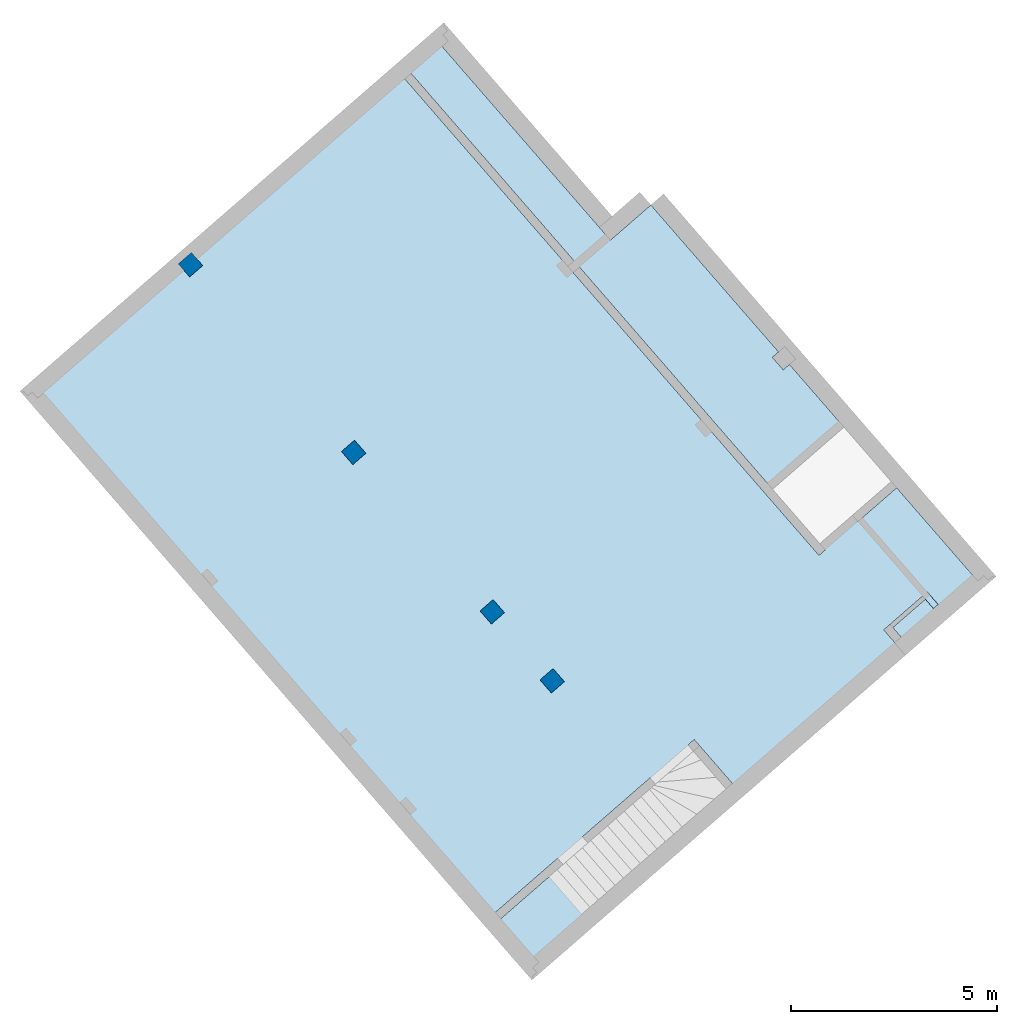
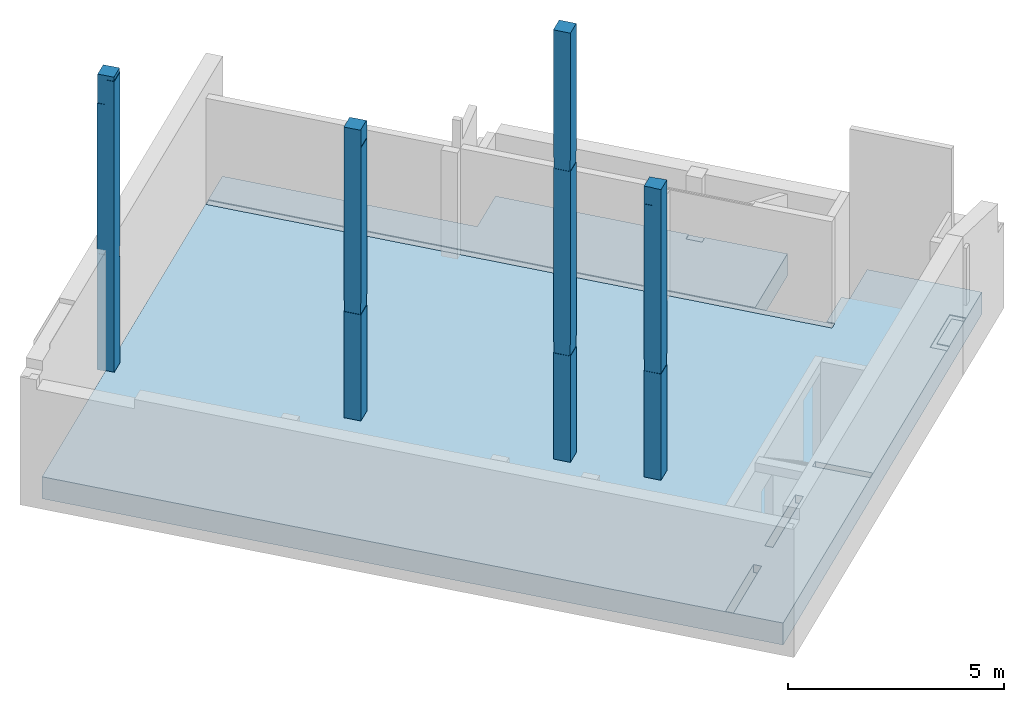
# One storey, part 2 of 4: 4 columns, 1 slab.
"""IFC2X3 building model written with IfcOpenShell, lengths in millimetres."""

from ifc_helpers import new_model, entity, si_unit, converted_unit, derived_unit, money_unit, direction, frame, origin_with_axes, place, context, subcontext, project, spatial, faceted_brep, material, material_list, type_object, element, save


model = new_model("IFC2X3")

# Units and contexts
model_context = context("Model", 3, precision=1e-05, world=origin_with_axes(), true_north=direction((0.0, 1.0)))
body_context = subcontext(model_context, "Body", "Model", "MODEL_VIEW")
ifc_project = project(units=[si_unit("LENGTHUNIT", "METRE", prefix="MILLI"), si_unit("AREAUNIT", "SQUARE_METRE"), si_unit("VOLUMEUNIT", "CUBIC_METRE"), converted_unit("PLANEANGLEUNIT", "DEGREE", entity("IfcPlaneAngleMeasure", 0.0174532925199), si_unit("PLANEANGLEUNIT", "RADIAN"), dimensions=[0, 0, 0, 0, 0, 0, 0]), si_unit("SOLIDANGLEUNIT", "STERADIAN"), money_unit("EUR"), converted_unit("TIMEUNIT", "Year", entity("IfcTimeMeasure", 31556926.0), si_unit("TIMEUNIT", "SECOND"), dimensions=[0, 0, 1, 0, 0, 0, 0]), si_unit("MASSUNIT", "GRAM", prefix="KILO"), si_unit("THERMODYNAMICTEMPERATUREUNIT", "DEGREE_CELSIUS"), si_unit("LUMINOUSINTENSITYUNIT", "LUMEN"), si_unit("ENERGYUNIT", "JOULE", prefix="MEGA"), derived_unit("THERMALCONDUCTANCEUNIT", [(si_unit("POWERUNIT", "WATT"), 1), (si_unit("LENGTHUNIT", "METRE"), -1), (si_unit("THERMODYNAMICTEMPERATUREUNIT", "KELVIN"), -1)]), derived_unit("SPECIFICHEATCAPACITYUNIT", [(si_unit("ENERGYUNIT", "JOULE"), 1), (si_unit("MASSUNIT", "GRAM", prefix="KILO"), -1), (si_unit("THERMODYNAMICTEMPERATUREUNIT", "KELVIN"), -1)]), derived_unit("MASSDENSITYUNIT", [(si_unit("MASSUNIT", "GRAM", prefix="KILO"), 1), (si_unit("VOLUMEUNIT", "CUBIC_METRE"), -1)])], contexts=[model_context])

# Site, building, storey
site_placement = place(None, origin_with_axes())
site = spatial("IfcSite", under=ifc_project, at=site_placement, Name="Site", CompositionType="ELEMENT")
building_placement = place(site_placement, origin_with_axes())
building = spatial("IfcBuilding", under=site, at=building_placement, Name="Building", CompositionType="ELEMENT")
storey_placement = place(building_placement, frame((0.0, 0.0, -3415.0), z_axis=(0.0, 0.0, 1.0), x_axis=(1.0, 0.0, 0.0)))
storey = spatial("IfcBuildingStorey", under=building, at=storey_placement, Name="-1 korrus", CompositionType="ELEMENT", Elevation=-3415.0)

# Columns
ifc_material_1 = material(Name="Betoon - Konstuktsioon")
ifc_material_2 = material(Name="Krohv - Lubjakivi")
ifc_material_list_1 = material_list([ifc_material_1, ifc_material_2, ifc_material_2])
column_type = type_object("IfcColumnType", Name="Post", PredefinedType="NOTDEFINED")
column_1_placement = place(storey_placement, frame((138718.826169, 75144.0497702, -20.0), z_axis=(0.0, 0.0, 1.0), x_axis=(0.656059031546, -0.754709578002, 0.0)))
element("IfcColumn", 1, at=column_1_placement, inside=storey, type_object=column_type, material=ifc_material_list_1, Name="Betoon - Konstuktsioon", ObjectType="Betoon - Konstuktsioon 400 x 400", context=body_context, shape_type="Brep", body=[
    faceted_brep([(-200.0, -200.0, 0.0), (200.0, -200.0, 0.0), (200.0, -200.0, 12150.0), (-200.0, -200.0, 12150.0), (-200.0, 200.0, 0.0), (200.0, 200.0, 0.0), (200.0, 200.0, 12150.0), (-200.0, 200.0, 12150.0)], [[[0, 1, 2, 3]], [[0, 4, 5, 1]], [[1, 5, 6, 2]], [[3, 2, 6, 7]], [[4, 0, 3, 7]], [[5, 4, 7, 6]]]),
    faceted_brep([(200.0, -200.0, 3020.0), (200.0, 200.0, 3020.0), (200.0, 200.0, 0.0), (200.0, -200.0, 0.0), (210.0, -210.0, 3020.0), (210.0, 210.0, 3020.0), (-210.0, 210.0, 3020.0), (-210.0, -210.0, 3020.0), (-200.0, 200.0, 3020.0), (-200.0, -200.0, 3020.0), (-200.0, 200.0, 0.0), (210.0, -210.0, 0.0), (-210.0, -210.0, 0.0), (-210.0, 210.0, 0.0), (210.0, 210.0, 0.0), (-200.0, -200.0, 0.0)], [[[0, 1, 2, 3]], [[4, 5, 6, 7], [8, 1, 0, 9]], [[1, 8, 10, 2]], [[11, 12, 13, 14], [10, 15, 3, 2]], [[9, 0, 3, 15]], [[5, 4, 11, 14]], [[6, 5, 14, 13]], [[7, 6, 13, 12]], [[4, 7, 12, 11]], [[8, 9, 15, 10]]]),
    faceted_brep([(-210.0, 200.0, 8550.0), (-210.0, 200.0, 8235.0), (-200.0, 200.0, 8235.0), (-200.0, 200.0, 8550.0), (-210.0, -210.0, 8550.0), (-210.0, -210.0, 12150.0), (-210.0, 210.0, 12150.0), (-210.0, 210.0, 3335.0), (-210.0, -210.0, 3335.0), (-210.0, -210.0, 8235.0), (210.0, -200.0, 8235.0), (200.0, -200.0, 8235.0), (-200.0, -200.0, 8235.0), (210.0, -210.0, 8235.0), (-200.000000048, 210.0, 8235.0), (-200.000000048, 210.0, 8550.0), (200.0, -200.0, 8550.0), (210.0, -200.0, 8550.0), (210.0, -210.0, 8550.0), (-200.0, -200.0, 8550.0), (210.0, -210.0, 12150.0), (210.0, 210.0, 12150.0), (200.0, -200.0, 12150.0), (-200.0, -200.0, 12150.0), (-200.0, 200.0, 12150.0), (200.0, 200.0, 12150.0), (210.0, 210.0, 3335.0), (210.0, 210.0, 8550.0), (210.0, 210.0, 8235.0), (210.0, -210.0, 3335.0), (200.0, -200.0, 3335.0), (200.0, 200.0, 3335.0), (-200.0, 200.0, 3335.0), (-200.0, -200.0, 3335.0), (200.0, 200.0, 8235.0), (200.0, 200.0, 8550.0)], [[[0, 1, 2, 3]], [[0, 4, 5, 6, 7, 8, 9, 1]], [[10, 11, 12, 2, 1, 9, 13]], [[2, 14, 15, 3]], [[16, 17, 18, 4, 0, 3, 19]], [[4, 18, 20, 5]], [[6, 5, 20, 21], [22, 23, 24, 25]], [[26, 7, 6, 21, 27, 15, 14, 28]], [[7, 26, 29, 8], [30, 31, 32, 33]], [[13, 9, 8, 29]], [[11, 10, 28, 14, 2, 34]], [[12, 11, 30, 33]], [[2, 12, 33, 32]], [[10, 13, 29, 26, 28]], [[17, 16, 35, 3, 15, 27]], [[18, 17, 27, 21, 20]], [[19, 3, 24, 23]], [[16, 19, 23, 22]], [[3, 35, 25, 24]], [[35, 16, 22, 25]], [[31, 30, 11, 34]], [[32, 31, 34, 2]]]),
])
column_2_placement = place(storey_placement, frame((135353.242825, 79015.7095983, -20.0), z_axis=(0.0, 0.0, 1.0), x_axis=(0.656059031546, -0.754709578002, 0.0)))
element("IfcColumn", 2, at=column_2_placement, inside=storey, type_object=column_type, material=ifc_material_list_1, Name="Betoon - Konstuktsioon", ObjectType="Betoon - Konstuktsioon 400 x 400", context=body_context, shape_type="Brep", body=[
    faceted_brep([(-200.0, -200.0, 0.0), (200.0, -200.0, 0.0), (200.0, -200.0, 8234.9999918), (-200.0, -200.0, 8234.9999918), (-200.0, 200.0, 0.0), (200.0, 200.0, 0.0), (200.0, 200.0, 8234.9999918), (-200.0, 200.0, 8234.9999918)], [[[0, 1, 2, 3]], [[0, 4, 5, 1]], [[1, 5, 6, 2]], [[3, 2, 6, 7]], [[4, 0, 3, 7]], [[5, 4, 7, 6]]]),
    faceted_brep([(200.000023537, -199.999776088, 3020.0), (200.000023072, 200.000223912, 3020.0), (200.0, 200.0, 0.0), (200.0, -200.0, 0.0), (210.0, -210.0, 3020.0), (210.0, 210.0, 3020.0), (-210.0, 210.0, 3020.0), (-210.0, -210.0, 3020.0), (-200.0, 200.0, 3020.0), (-200.0, -200.0, 3020.0), (-200.0, 200.0, 0.0), (210.0, 210.0, 0.0), (210.0, -210.0, 0.0), (-210.0, -210.0, 0.0), (-210.0, 210.0, 0.0), (-200.0, -200.0, 0.0)], [[[0, 1, 2, 3]], [[4, 5, 6, 7], [8, 1, 0, 9]], [[1, 8, 10, 2]], [[11, 12, 13, 14], [2, 10, 15, 3]], [[9, 0, 3, 15]], [[5, 4, 12, 11]], [[6, 5, 11, 14]], [[7, 6, 14, 13]], [[4, 7, 13, 12]], [[8, 9, 15, 10]]]),
    faceted_brep([(-200.0, 200.0, 3335.0), (200.000025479, 200.000247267, 3335.0), (200.000059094, 200.000573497, 7735.0), (200.000059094, 200.000573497, 8235.0), (-200.0, 200.0, 8234.9999918), (-210.0, 210.0, 3335.0), (210.0, 210.0, 3335.0), (210.0, -210.0, 3335.0), (-210.0, -210.0, 3335.0), (200.000025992, -199.999752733, 3335.0), (-200.0, -200.0, 3335.0), (200.000060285, -199.999426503, 7735.0), (210.0, 200.000573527, 7735.0), (210.0, 200.000573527, 8235.0), (210.0, -210.0, 8234.9999918), (210.0, -199.999426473, 8235.0), (200.000060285, -199.999426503, 8235.0), (-200.0, -200.0, 8234.9999918), (210.0, 210.0, 8234.9999918), (-210.0, 210.0, 8234.9999918), (-210.0, -210.0, 8234.9999918), (210.0, -199.999426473, 7735.0)], [[[0, 1, 2, 3, 4]], [[5, 6, 7, 8], [9, 1, 0, 10]], [[1, 9, 11, 2]], [[2, 12, 13, 3]], [[14, 15, 16, 17, 4, 3, 13, 18, 19, 20]], [[10, 0, 4, 17]], [[6, 5, 19, 18]], [[7, 6, 18, 13, 12, 21, 15, 14]], [[8, 7, 14, 20]], [[5, 8, 20, 19]], [[9, 10, 17, 16, 11]], [[11, 21, 12, 2]], [[11, 16, 15, 21]]]),
])
column_3_placement = place(storey_placement, frame((140175.27717, 73468.5945627, -20.0), z_axis=(0.0, 0.0, 1.0), x_axis=(0.656059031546, -0.754709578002, 0.0)))
element("IfcColumn", 3, at=column_3_placement, inside=storey, type_object=column_type, material=ifc_material_list_1, Name="Betoon - Konstuktsioon", ObjectType="Betoon - Konstuktsioon 400 x 400", context=body_context, shape_type="Brep", body=[
    faceted_brep([(-200.0, -200.0, 0.0), (200.0, -200.0, 0.0), (200.0, -200.0, 8235.0), (-200.0, -200.0, 8235.0), (-200.0, 200.0, 0.0), (200.0, 200.0, 0.0), (200.0, 200.0, 8235.0), (-200.0, 200.0, 8235.0)], [[[0, 1, 2, 3]], [[0, 4, 5, 1]], [[1, 5, 6, 2]], [[3, 2, 6, 7]], [[4, 0, 3, 7]], [[5, 4, 7, 6]]]),
    faceted_brep([(200.0, -200.0, 3020.0), (200.0, 200.0, 3020.0), (200.0, 200.0, 0.0), (200.0, -200.0, 0.0), (210.0, -210.0, 3020.0), (210.0, 210.0, 3020.0), (-210.0, 210.0, 3020.0), (-210.0, -210.0, 3020.0), (-199.999997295, 200.0, 3020.0), (-199.999997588, -200.0, 3020.0), (-200.0, 200.0, 0.0), (210.0, 210.0, 0.0), (210.0, -210.0, 0.0), (-210.0, -210.0, 0.0), (-210.0, 210.0, 0.0), (-200.0, -200.0, 0.0)], [[[0, 1, 2, 3]], [[4, 5, 6, 7], [8, 1, 0, 9]], [[1, 8, 10, 2]], [[11, 12, 13, 14], [2, 10, 15, 3]], [[9, 0, 3, 15]], [[5, 4, 12, 11]], [[6, 5, 11, 14]], [[7, 6, 14, 13]], [[4, 7, 13, 12]], [[8, 9, 15, 10]]]),
    faceted_brep([(-199.999997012, 200.0, 3335.0), (200.0, 200.0, 3335.0), (200.0, 200.0, 8235.0), (6.92904222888e-06, 200.0, 8235.0), (6.92904222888e-06, 200.0, 7735.0), (-199.999993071, 200.0, 7735.0), (-210.0, 210.0, 3335.0), (210.0, 210.0, 3335.0), (210.0, -210.0, 3335.0), (-210.0, -210.0, 3335.0), (200.0, -200.0, 3335.0), (-199.999997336, -200.0, 3335.0), (200.0, -200.0, 8235.0), (210.0, 210.0, 8235.0), (6.94781476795e-06, 210.0, 8235.0), (6.17843198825e-06, -200.0, 8235.0), (6.15968076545e-06, -210.0, 8235.0), (210.0, -210.0, 8235.0), (6.94780766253e-06, 210.0, 7735.0), (-199.999993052, 210.0, 7735.0), (-199.999993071, 200.0, 8235.0), (-199.999993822, -200.0, 8235.0), (-199.999993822, -200.0, 7735.0), (-210.0, 210.0, 8235.0), (-199.999993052, 210.0, 8235.0), (6.15966655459e-06, -210.0, 7735.0), (-199.99999384, -210.0, 7735.0), (-199.99999384, -210.0, 8235.0), (-210.0, -210.0, 8235.0), (6.17843198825e-06, -200.0, 7735.0)], [[[0, 1, 2, 3, 4, 5]], [[6, 7, 8, 9], [10, 1, 0, 11]], [[1, 10, 12, 2]], [[13, 14, 3, 2, 12, 15, 16, 17]], [[4, 3, 14, 18]], [[4, 18, 19, 5]], [[11, 0, 5, 20, 21, 22]], [[7, 6, 23, 24, 19, 18, 14, 13]], [[8, 7, 13, 17]], [[9, 8, 17, 16, 25, 26, 27, 28]], [[6, 9, 28, 23]], [[10, 11, 22, 29, 15, 12]], [[25, 16, 15, 29]], [[5, 19, 24, 20]], [[21, 20, 24, 23, 28, 27]], [[26, 22, 21, 27]], [[25, 29, 22, 26]]]),
])
ifc_material_list_2 = material_list([ifc_material_1, ifc_material_2])
column_4_placement = place(storey_placement, frame((131390.646308, 83574.1554382, -20.0), z_axis=(0.0, 0.0, 1.0), x_axis=(0.656059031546, -0.754709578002, 0.0)))
element("IfcColumn", 4, at=column_4_placement, inside=storey, type_object=column_type, material=ifc_material_list_2, Name="Betoon - Konstuktsioon", ObjectType="Betoon - Konstuktsioon 400 x 400", context=body_context, shape_type="Brep", body=[
    faceted_brep([(-200.0, -200.0, 0.0), (200.0, -200.0, 0.0), (200.0, -200.0, 8350.0), (-200.0, -200.0, 8350.0), (-200.0, 200.0, 0.0), (200.0, 200.0, 0.0), (200.0, 200.0, 8350.0), (-200.0, 200.0, 8350.0)], [[[0, 1, 2, 3]], [[0, 4, 5, 1]], [[1, 5, 6, 2]], [[3, 2, 6, 7]], [[4, 0, 3, 7]], [[5, 4, 7, 6]]]),
    faceted_brep([(4.85299977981e-06, 210.0, 8235.0), (210.0, 210.0, 8235.0), (210.0, 210.0, 3335.0), (10.0000450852, 210.0, 3335.0), (10.0000450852, 210.0, 3020.0), (210.0, 210.0, 3020.0), (210.0, 210.0, 0.0), (-210.0, 210.0, 0.0), (-210.0, 210.0, 7535.0), (-8.49995984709e-06, 210.0, 7535.0), (-200.00003705, 210.0, 3435.00019992), (-200.00003705, 210.0, 3285.0), (-3.70497659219e-05, 210.0, 3285.0), (-3.70497659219e-05, 210.0, 3435.00019992), (210.0, -210.0, 8235.0), (4.82222617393e-06, 200.0, 8235.0), (200.0, 200.0, 8235.0), (200.0, -200.0, 8235.0), (3.59150220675e-06, -200.0, 8235.0), (3.56071439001e-06, -210.0, 8235.0), (210.0, -210.0, 0.0), (210.0, 179.761567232, 3020.0), (210.0, 179.761567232, 3335.0), (200.0, 179.761151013, 3335.0), (200.0, 200.0, 3335.0), (9.99997992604, 200.0, 3335.0), (9.99997992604, 200.0, 3020.0), (200.0, 200.0, 3020.0), (200.0, 179.761151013, 3020.0), (-210.0, -210.0, 0.0), (200.0, 200.0, 0.0), (-200.0, 200.0, 0.0), (-200.0, -200.0, 0.0), (200.0, -200.0, 0.0), (-210.0, -210.0, 7535.0), (-200.00001021, -200.0, 7535.0), (-200.000008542, 200.0, 7535.0), (-8.54166870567e-06, 200.0, 7535.0), (-1.0251618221e-05, -210.0, 7535.0), (-1.0209902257e-05, -200.0, 7535.0), (-200.000036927, 200.0, 3285.0), (-200.000036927, 200.0, 3435.00019992), (-3.69270409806e-05, 200.0, 3285.0), (-3.69270409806e-05, 200.0, 3435.00019992), (-200.000032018, -200.0, 3285.0), (-3.20183559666e-05, -200.0, 3285.0), (-3.20183559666e-05, -200.0, 3435.00019992), (-200.000032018, -200.0, 3435.00019992), (-3.18956594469e-05, -210.0, 3285.0), (-200.000031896, -210.0, 3285.0), (-200.000031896, -210.0, 3435.00019992), (-3.18956594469e-05, -210.0, 3435.00019992)], [[[0, 1, 2, 3, 4, 5, 6, 7, 8, 9], [10, 11, 12, 13]], [[14, 1, 0, 15, 16, 17, 18, 19]], [[1, 14, 20, 6, 5, 21, 22, 2]], [[3, 2, 22, 23, 24, 25]], [[25, 26, 4, 3]], [[21, 5, 4, 26, 27, 28]], [[6, 20, 29, 7], [30, 31, 32, 33]], [[29, 34, 8, 7]], [[35, 36, 37, 9, 8, 34, 38, 39]], [[15, 0, 9, 37]], [[40, 11, 10, 41]], [[42, 12, 11, 40]], [[43, 13, 12, 42]], [[41, 10, 13, 43]], [[16, 15, 37, 36, 41, 43, 42, 40, 31, 30, 27, 26, 25, 24]], [[17, 16, 24, 23, 28, 27, 30, 33]], [[18, 17, 33, 32, 44, 45, 46, 47, 35, 39]], [[19, 18, 39, 38]], [[14, 19, 38, 34, 29, 20], [48, 49, 50, 51]], [[28, 23, 22, 21]], [[41, 36, 35, 47, 44, 32, 31, 40]], [[48, 45, 44, 49]], [[51, 46, 45, 48]], [[50, 47, 46, 51]], [[49, 44, 47, 50]]]),
])

# Slab
ifc_material_3 = material(Name="Puit - Põrand")
ifc_material_4 = material(Name="Betoon")
ifc_material_5 = material(Name="Soojustus - Plastik Kõva")
ifc_material_6 = material(Name="Killustik")
ifc_material_list_3 = material_list([ifc_material_3, ifc_material_4, ifc_material_5, ifc_material_5, ifc_material_6])
slab_type = type_object("IfcSlabType", Name="PP-01", PredefinedType="FLOOR")
slab_placement = place(storey_placement, frame((137496.155376, 88881.5935051, 0.0), z_axis=(0.0, 0.0, 1.0), x_axis=(1.0, 0.0, 0.0)))
element("IfcSlab", 5, at=slab_placement, inside=storey, type_object=slab_type, material=ifc_material_list_3, Name="PP-01", PredefinedType="FLOOR", context=body_context, shape_type="Brep", body=[
    faceted_brep([(-5809.24766022, -5328.15468159, -20.0), (-5947.02005896, -5169.66566778, -20.0), (0.0, 0.0, -20.0), (4093.80824677, -4709.38786107, -20.0), (5074.93019105, -3856.5115667, -20.0), (8178.08980476, -7426.28758869, -20.0), (8027.14807656, -7557.4992321, -20.0), (8289.57168918, -7859.3830633, -20.0), (8440.51344819, -7728.17139311, -20.0), (9765.75282005, -9252.68457386, -20.0), (8029.92084497, -10761.6204038, -20.0), (-748.148996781, -663.606131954, -20.0), (-899.090912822, -794.817937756, -20.0), (9158.2939724, -12364.5158317, -20.0), (9309.23588903, -12233.3040266, -20.0), (9178.02407891, -12082.3621042, -20.0), (9970.46914322, -11393.5001256, -20.0), (10101.6810515, -11544.4419525, -20.0), (11045.0674464, -10724.367546, -20.0), (12888.6007952, -12845.0887993, -20.0), (11152.7617638, -14354.0379388, -20.0), (10949.3881721, -14120.0833908, -20.0), (11741.8063804, -13431.2447514, -20.0), (11938.619372, -13657.6522125, -20.0), (12051.8258119, -13559.2433615, -20.0), (11789.4069167, -13257.3649371, -20.0), (11676.2004797, -13355.7737915, -20.0), (10883.7822681, -14044.6124338, -20.0), (10732.8403521, -14175.8242396, -20.0), (11001.8198497, -14485.2497468, -20.0), (2224.54742411, -22115.2162503, -20.0), (-9682.9239498, -8417.23737447, -20.0), (-6263.99808263, -5445.21045998, -20.0), (-6126.22568298, -5603.69947484, -20.0), (6900.96234898, -18036.8258001, -20.0), (7051.90426501, -17905.6139943, -20.0), (6258.07090297, -16992.4131742, -20.0), (6126.85909715, -16841.4712582, -20.0), (5975.91718123, -16972.6830624, -20.0), (6107.12898619, -17123.6249792, -20.0), (5055.17148888, -17773.0750726, -20.0), (3413.67812535, -19200.0034676, -20.0), (3544.8899303, -19350.9453844, -20.0), (5186.38329383, -17924.0169894, -20.0), (2809.91045823, -19724.8506874, -20.0), (1300.4912913, -21036.9687362, -20.0), (1431.70309625, -21187.9106529, -20.0), (2941.12226318, -19875.7926042, -20.0), (2382.86038637, -15392.2823276, -20.0), (2658.40517962, -15709.2603504, -20.0), (2975.38320238, -15433.7155571, -20.0), (2699.83840913, -15116.7375343, -20.0), (-2439.1739587, -9845.16729197, -20.0), (-2163.62916546, -10162.1453147, -20.0), (-1846.65114269, -9886.60052148, -20.0), (-2122.19593594, -9569.62249872, -20.0), (926.409384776, -13716.8271201, -20.0), (1201.95417803, -14033.8051429, -20.0), (1518.93220079, -13758.2603497, -20.0), (1243.38740754, -13441.2823269, -20.0), (-5809.24766022, -5328.15468159, 0.0), (-5947.02005896, -5169.66566778, 0.0), (0.0, 0.0, 0.0), (4093.80824677, -4709.38786107, 0.0), (5074.93019105, -3856.5115667, 0.0), (8178.08980476, -7426.28758869, 0.0), (8027.14807656, -7557.4992321, 0.0), (8289.57168918, -7859.3830633, 0.0), (8440.51344819, -7728.17139311, 0.0), (9765.75282005, -9252.68457386, 0.0), (8029.92084497, -10761.6204038, 0.0), (-748.148996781, -663.606131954, 0.0), (-899.090912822, -794.817937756, 0.0), (9158.2939724, -12364.5158317, 0.0), (9309.23588903, -12233.3040266, 0.0), (9178.02407891, -12082.3621042, 0.0), (9970.46914322, -11393.5001256, 0.0), (10101.6810515, -11544.4419525, 0.0), (11045.0674455, -10724.3675468, 0.0), (12888.6007952, -12845.0887993, 0.0), (11152.7617638, -14354.0379388, 0.0), (10949.3881721, -14120.0833908, 0.0), (11741.8063804, -13431.2447514, 0.0), (11938.619372, -13657.6522125, 0.0), (12051.8258119, -13559.2433615, 0.0), (11855.0128203, -13332.8359004, 0.0), (11789.4069167, -13257.3649371, 0.0), (10883.7822681, -14044.6124338, 0.0), (10732.8403521, -14175.8242396, 0.0), (11001.8198497, -14485.2497468, 0.0), (2224.54742411, -22115.2162503, 0.0), (-9682.9239498, -8417.23737447, 0.0), (-6263.99808263, -5445.21045998, 0.0), (-6126.22568298, -5603.69947484, 0.0), (6900.96234898, -18036.8258001, 0.0), (7051.90426501, -17905.6139943, 0.0), (6258.07090297, -16992.4131742, 0.0), (6126.85909715, -16841.4712582, 0.0), (5975.91718123, -16972.6830624, 0.0), (6107.12898619, -17123.6249792, 0.0), (5055.17148888, -17773.0750726, 0.0), (3413.67812535, -19200.0034676, 0.0), (3544.8899303, -19350.9453844, 0.0), (5186.38329383, -17924.0169894, 0.0), (2809.91045823, -19724.8506874, 0.0), (1300.4912913, -21036.9687362, 0.0), (1431.70309625, -21187.9106529, 0.0), (2941.12226318, -19875.7926042, 0.0), (2382.86038637, -15392.2823276, 0.0), (2658.40517962, -15709.2603504, 0.0), (2975.38320238, -15433.7155571, 0.0), (2699.83840913, -15116.7375343, 0.0), (-2439.1739587, -9845.16729197, 0.0), (-2163.62916546, -10162.1453147, 0.0), (-1846.65114269, -9886.60052148, 0.0), (-2122.19593594, -9569.62249872, 0.0), (926.409384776, -13716.8271201, 0.0), (1201.95417803, -14033.8051429, 0.0), (1518.93220079, -13758.2603497, 0.0), (1243.38740754, -13441.2823269, 0.0)], [[[0, 1, 2, 3, 4, 5, 6, 7, 8, 9, 10, 11, 12, 13, 14, 15, 16, 17, 18, 19, 20, 21, 22, 23, 24, 25, 26, 27, 28, 29, 30, 31, 32, 33], [34, 35, 36, 37, 38, 39], [40, 41, 42, 43], [44, 45, 46, 47], [48, 49, 50, 51], [52, 53, 54, 55], [56, 57, 58, 59]], [[60, 61, 1, 0]], [[1, 61, 62, 2]], [[63, 3, 2, 62]], [[64, 4, 3, 63]], [[65, 5, 4, 64]], [[5, 65, 66, 6]], [[66, 67, 7, 6]], [[67, 68, 8, 7]], [[8, 68, 69, 9]], [[69, 70, 10, 9]], [[10, 70, 71, 11]], [[11, 71, 72, 12]], [[13, 12, 72, 73]], [[13, 73, 74, 14]], [[14, 74, 75, 15]], [[16, 15, 75, 76]], [[16, 76, 77, 17]], [[17, 77, 78, 18]], [[19, 18, 78, 79]], [[79, 80, 20, 19]], [[80, 81, 21, 20]], [[21, 81, 82, 22]], [[23, 22, 82, 83]], [[23, 83, 84, 24]], [[24, 84, 85, 86, 25]], [[86, 87, 27, 26, 25]], [[28, 27, 87, 88]], [[28, 88, 89, 29]], [[30, 29, 89, 90]], [[91, 31, 30, 90]], [[92, 32, 31, 91]], [[92, 93, 33, 32]], [[93, 60, 0, 33]], [[34, 94, 95, 35]], [[35, 95, 96, 36]], [[37, 36, 96, 97]], [[37, 97, 98, 38]], [[98, 99, 39, 38]], [[39, 99, 94, 34]], [[40, 100, 101, 41]], [[41, 101, 102, 42]], [[42, 102, 103, 43]], [[43, 103, 100, 40]], [[44, 104, 105, 45]], [[45, 105, 106, 46]], [[46, 106, 107, 47]], [[47, 107, 104, 44]], [[108, 109, 49, 48]], [[109, 110, 50, 49]], [[110, 111, 51, 50]], [[111, 108, 48, 51]], [[112, 113, 53, 52]], [[113, 114, 54, 53]], [[114, 115, 55, 54]], [[115, 112, 52, 55]], [[116, 117, 57, 56]], [[117, 118, 58, 57]], [[118, 119, 59, 58]], [[119, 116, 56, 59]], [[93, 92, 91, 90, 89, 88, 87, 86, 85, 84, 83, 82, 81, 80, 79, 78, 77, 76, 75, 74, 73, 72, 71, 70, 69, 68, 67, 66, 65, 64, 63, 62, 61, 60], [95, 94, 99, 98, 97, 96], [102, 101, 100, 103], [106, 105, 104, 107], [108, 111, 110, 109], [112, 115, 114, 113], [116, 119, 118, 117]]]),
    faceted_brep([(11045.0674464, -10724.367546, -20.0), (10101.6810515, -11544.4419525, -20.0), (9970.46914322, -11393.5001256, -20.0), (9178.02407891, -12082.3621042, -20.0), (8029.92083877, -10761.6204092, -20.0), (9765.75282005, -9252.68457386, -20.0), (5074.93019105, -3856.5115667, -20.0), (4093.80824677, -4709.38786107, -20.0), (0.0, 0.0, -20.0), (-9682.9239498, -8417.23737447, -20.0), (2224.54742411, -22115.2162503, -20.0), (12888.6007952, -12845.0887993, -20.0), (7051.90426501, -17905.6139943, -20.0), (6900.96234898, -18036.8258001, -20.0), (6107.12898619, -17123.6249792, -20.0), (5975.91718123, -16972.6830624, -20.0), (6126.85909715, -16841.4712582, -20.0), (6258.07090297, -16992.4131742, -20.0), (3544.8899303, -19350.9453844, -20.0), (3413.67812535, -19200.0034676, -20.0), (5055.17148888, -17773.0750726, -20.0), (5186.38329383, -17924.0169894, -20.0), (1431.70309625, -21187.9106529, -20.0), (1300.4912913, -21036.9687362, -20.0), (2809.91045823, -19724.8506874, -20.0), (2941.12226318, -19875.7926042, -20.0), (10101.6810515, -11544.4419525, -220.0), (11045.0674548, -10724.3675387, -220.0), (9970.46914322, -11393.5001256, -220.0), (9178.02407891, -12082.3621042, -220.0), (8029.92083877, -10761.6204092, -220.0), (9765.75282005, -9252.68457386, -220.0), (5074.93019105, -3856.5115667, -220.0), (4093.80824677, -4709.38786107, -220.0), (0.0, 0.0, -220.0), (-9682.9239498, -8417.23737447, -220.0), (2224.54742411, -22115.2162503, -220.0), (12888.6007952, -12845.0887993, -220.0), (6900.96234898, -18036.8258001, -220.0), (7051.90426501, -17905.6139943, -220.0), (6107.12898619, -17123.6249792, -220.0), (5975.91718123, -16972.6830624, -220.0), (6126.85909715, -16841.4712582, -220.0), (6258.07090297, -16992.4131742, -220.0), (3413.67812535, -19200.0034676, -220.0), (3544.8899303, -19350.9453844, -220.0), (5055.17148888, -17773.0750726, -220.0), (5186.38329383, -17924.0169894, -220.0), (1300.4912913, -21036.9687362, -220.0), (1431.70309625, -21187.9106529, -220.0), (2809.91045823, -19724.8506874, -220.0), (2941.12226318, -19875.7926042, -220.0)], [[[0, 1, 2, 3, 4, 5, 6, 7, 8, 9, 10, 11], [12, 13, 14, 15, 16, 17], [18, 19, 20, 21], [22, 23, 24, 25]], [[26, 1, 0, 27]], [[28, 2, 1, 26]], [[3, 2, 28, 29]], [[3, 29, 30, 4]], [[4, 30, 31, 5]], [[5, 31, 32, 6]], [[6, 32, 33, 7]], [[7, 33, 34, 8]], [[8, 34, 35, 9]], [[9, 35, 36, 10]], [[10, 36, 37, 11]], [[37, 27, 0, 11]], [[38, 13, 12, 39]], [[40, 14, 13, 38]], [[15, 14, 40, 41]], [[42, 16, 15, 41]], [[42, 43, 17, 16]], [[39, 12, 17, 43]], [[44, 19, 18, 45]], [[46, 20, 19, 44]], [[47, 21, 20, 46]], [[45, 18, 21, 47]], [[48, 23, 22, 49]], [[50, 24, 23, 48]], [[51, 25, 24, 50]], [[49, 22, 25, 51]], [[28, 26, 27, 37, 36, 35, 34, 33, 32, 31, 30, 29], [38, 39, 43, 42, 41, 40], [46, 44, 45, 47], [50, 48, 49, 51]]]),
    faceted_brep([(10101.6810515, -11544.4419525, -220.0), (9970.46914322, -11393.5001256, -220.0), (9178.02407891, -12082.3621042, -220.0), (8029.92083877, -10761.6204092, -220.0), (9765.75282005, -9252.68457386, -220.0), (5074.93019105, -3856.5115667, -220.0), (4093.80824677, -4709.38786107, -220.0), (0.0, 0.0, -220.0), (-9682.9239498, -8417.23737447, -220.0), (2224.54742411, -22115.2162503, -220.0), (12888.6007952, -12845.0887993, -220.0), (11045.0674548, -10724.3675387, -220.0), (6900.96234898, -18036.8258001, -220.0), (6107.12898619, -17123.6249792, -220.0), (1431.70309625, -21187.9106529, -220.0), (1300.4912913, -21036.9687362, -220.0), (6126.85909715, -16841.4712582, -220.0), (6258.07090297, -16992.4131742, -220.0), (7051.90426501, -17905.6139943, -220.0), (10101.6810515, -11544.4419525, -320.0), (9970.46914322, -11393.5001256, -320.0), (9178.02407891, -12082.3621042, -320.0), (8029.92083877, -10761.6204092, -320.0), (9765.75282005, -9252.68457386, -320.0), (5074.93019105, -3856.5115667, -320.0), (4093.80824677, -4709.38786107, -320.0), (0.0, 0.0, -320.0), (-9682.9239498, -8417.23737447, -320.0), (2224.54742411, -22115.2162503, -320.0), (12888.6007952, -12845.0887993, -320.0), (11045.0674591, -10724.367535, -320.0), (6900.96234898, -18036.8258001, -320.0), (6107.12898619, -17123.6249792, -320.0), (1431.70309625, -21187.9106529, -320.0), (1300.4912913, -21036.9687362, -320.0), (6126.85909715, -16841.4712582, -320.0), (6258.07090297, -16992.4131742, -320.0), (7051.90426501, -17905.6139943, -320.0)], [[[0, 1, 2, 3, 4, 5, 6, 7, 8, 9, 10, 11], [12, 13, 14, 15, 16, 17, 18]], [[1, 0, 19, 20]], [[1, 20, 21, 2]], [[21, 22, 3, 2]], [[22, 23, 4, 3]], [[23, 24, 5, 4]], [[24, 25, 6, 5]], [[25, 26, 7, 6]], [[26, 27, 8, 7]], [[27, 28, 9, 8]], [[28, 29, 10, 9]], [[30, 11, 10, 29]], [[0, 11, 30, 19]], [[13, 12, 31, 32]], [[13, 32, 33, 14]], [[15, 14, 33, 34]], [[16, 15, 34, 35]], [[36, 17, 16, 35]], [[18, 17, 36, 37]], [[12, 18, 37, 31]], [[19, 30, 29, 28, 27, 26, 25, 24, 23, 22, 21, 20], [37, 36, 35, 34, 33, 32, 31]]]),
    faceted_brep([(10101.6810515, -11544.4419525, -320.0), (9970.46914322, -11393.5001256, -320.0), (9178.02407891, -12082.3621042, -320.0), (8029.92083877, -10761.6204092, -320.0), (9765.75282005, -9252.68457386, -320.0), (5074.93019105, -3856.5115667, -320.0), (4093.80824677, -4709.38786107, -320.0), (0.0, 0.0, -320.0), (-9682.9239498, -8417.23737447, -320.0), (2224.54742411, -22115.2162503, -320.0), (12888.6007952, -12845.0887993, -320.0), (11045.0674591, -10724.367535, -320.0), (6900.96234898, -18036.8258001, -320.0), (6107.12898619, -17123.6249792, -320.0), (1431.70309625, -21187.9106529, -320.0), (1300.4912913, -21036.9687362, -320.0), (6126.85909715, -16841.4712582, -320.0), (6258.07090297, -16992.4131742, -320.0), (7051.90426501, -17905.6139943, -320.0), (10101.6810515, -11544.4419525, -420.0), (9970.46914322, -11393.5001256, -420.0), (9178.02407891, -12082.3621042, -420.0), (8029.92083877, -10761.6204092, -420.0), (9765.75282005, -9252.68457386, -420.0), (5074.93019105, -3856.5115667, -420.0), (4093.80824677, -4709.38786107, -420.0), (0.0, 0.0, -420.0), (-9682.9239498, -8417.23737447, -420.0), (2224.54742411, -22115.2162503, -420.0), (12888.6007952, -12845.0887993, -420.0), (11045.0674633, -10724.3675313, -420.0), (6900.96234898, -18036.8258001, -420.0), (6107.12898619, -17123.6249792, -420.0), (1431.70309625, -21187.9106529, -420.0), (1300.4912913, -21036.9687362, -420.0), (6126.85909715, -16841.4712582, -420.0), (6258.07090297, -16992.4131742, -420.0), (7051.90426501, -17905.6139943, -420.0)], [[[0, 1, 2, 3, 4, 5, 6, 7, 8, 9, 10, 11], [12, 13, 14, 15, 16, 17, 18]], [[1, 0, 19, 20]], [[1, 20, 21, 2]], [[21, 22, 3, 2]], [[22, 23, 4, 3]], [[23, 24, 5, 4]], [[24, 25, 6, 5]], [[25, 26, 7, 6]], [[26, 27, 8, 7]], [[27, 28, 9, 8]], [[28, 29, 10, 9]], [[30, 11, 10, 29]], [[0, 11, 30, 19]], [[13, 12, 31, 32]], [[13, 32, 33, 14]], [[15, 14, 33, 34]], [[16, 15, 34, 35]], [[36, 17, 16, 35]], [[18, 17, 36, 37]], [[12, 18, 37, 31]], [[19, 30, 29, 28, 27, 26, 25, 24, 23, 22, 21, 20], [37, 36, 35, 34, 33, 32, 31]]]),
    faceted_brep([(10101.6810515, -11544.4419525, -420.0), (9970.46914322, -11393.5001256, -420.0), (9178.02407891, -12082.3621042, -420.0), (8029.92083877, -10761.6204092, -420.0), (9765.75282005, -9252.68457386, -420.0), (5074.93019105, -3856.5115667, -420.0), (4093.80824677, -4709.38786107, -420.0), (0.0, 0.0, -420.0), (-9682.9239498, -8417.23737447, -420.0), (2224.54742411, -22115.2162503, -420.0), (12888.6007952, -12845.0887993, -420.0), (11045.0674633, -10724.3675313, -420.0), (6900.96234898, -18036.8258001, -420.0), (6107.12898619, -17123.6249792, -420.0), (1431.70309625, -21187.9106529, -420.0), (1300.4912913, -21036.9687362, -420.0), (6126.85909715, -16841.4712582, -420.0), (6258.07090297, -16992.4131742, -420.0), (7051.90426501, -17905.6139943, -420.0), (10101.6810515, -11544.4419525, -620.0), (9970.46914322, -11393.5001256, -620.0), (9178.02407891, -12082.3621042, -620.0), (8029.92083877, -10761.6204092, -620.0), (9765.75282005, -9252.68457386, -620.0), (5074.93019105, -3856.5115667, -620.0), (4093.80824677, -4709.38786107, -620.0), (0.0, 0.0, -620.0), (-9682.9239498, -8417.23737447, -620.0), (2224.54742411, -22115.2162503, -620.0), (12888.6007952, -12845.0887993, -620.0), (11045.0674718, -10724.3675239, -620.0), (6900.96234898, -18036.8258001, -620.0), (6107.12898619, -17123.6249792, -620.0), (1431.70309625, -21187.9106529, -620.0), (1300.4912913, -21036.9687362, -620.0), (6126.85909715, -16841.4712582, -620.0), (6258.07090297, -16992.4131742, -620.0), (7051.90426501, -17905.6139943, -620.0)], [[[0, 1, 2, 3, 4, 5, 6, 7, 8, 9, 10, 11], [12, 13, 14, 15, 16, 17, 18]], [[1, 0, 19, 20]], [[1, 20, 21, 2]], [[21, 22, 3, 2]], [[22, 23, 4, 3]], [[23, 24, 5, 4]], [[24, 25, 6, 5]], [[25, 26, 7, 6]], [[26, 27, 8, 7]], [[27, 28, 9, 8]], [[28, 29, 10, 9]], [[30, 11, 10, 29]], [[0, 11, 30, 19]], [[13, 12, 31, 32]], [[13, 32, 33, 14]], [[15, 14, 33, 34]], [[16, 15, 34, 35]], [[36, 17, 16, 35]], [[18, 17, 36, 37]], [[12, 18, 37, 31]], [[19, 30, 29, 28, 27, 26, 25, 24, 23, 22, 21, 20], [37, 36, 35, 34, 33, 32, 31]]]),
])

save(model, "model.ifc")
